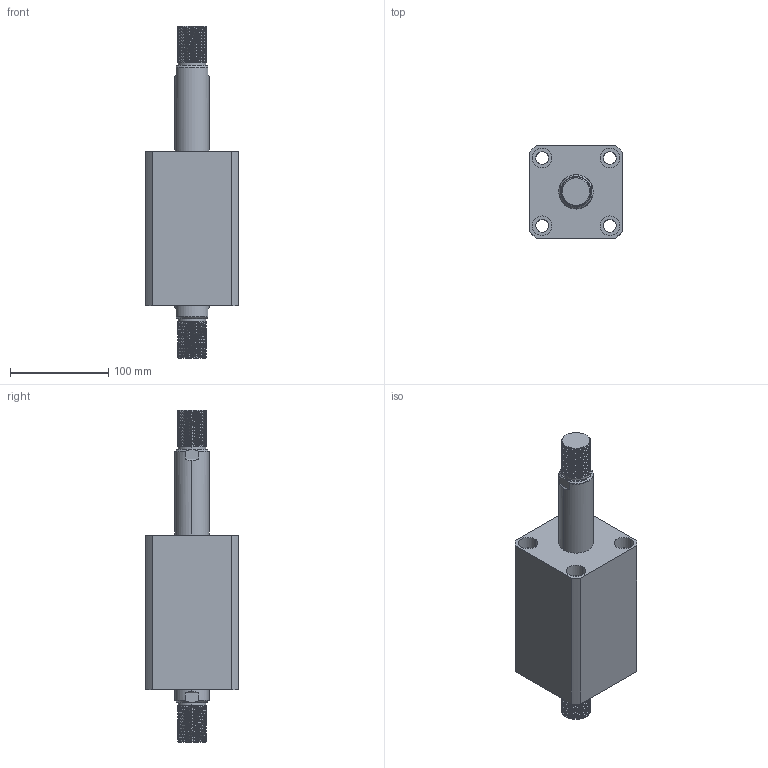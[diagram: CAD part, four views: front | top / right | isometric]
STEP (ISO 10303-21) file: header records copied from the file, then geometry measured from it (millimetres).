
FILE_DESCRIPTION (( 'STEP AP214' ), '1' );
FILE_NAME ('chtb-sw63x75w_asm.STEP', '2018-05-19T03:24:00', ( 'Windows' ), ( 'Microsoft' ), 'SwSTEP 2.0', 'SolidWorks 2015', '' );
FILE_SCHEMA (( 'AUTOMOTIVE_DESIGN' ));
Length unit declared in the file: millimetre
Products named in the file (4): chtb-sw63x75w_asm; CHTB-SW63X75WHSG; CHTB-SW63X75NBT; CHTB-63QG
Assembly tree (3 placements, depth 2):
  chtb-sw63x75w_asm
    CHTB-63QG
    CHTB-SW63X75NBT
    CHTB-SW63X75WHSG
Bounding box: 94 x 94 x 338 mm (x, y, z)
Volume: 1255101.9 mm3; surface area: 199326.9 mm2
Topology: 3 solids, 3 shells, 296 faces, 841 edges, 569 vertices
Faces by surface type: cylinder 206, plane 46, bspline 16, cone 16, torus 12
Entity records: 27380 total; most frequent: CARTESIAN_POINT 20442, ORIENTED_EDGE 1674, DIRECTION 1166, EDGE_CURVE 837, VERTEX_POINT 569, AXIS2_PLACEMENT_3D 453, EDGE_LOOP 334, ADVANCED_FACE 296
